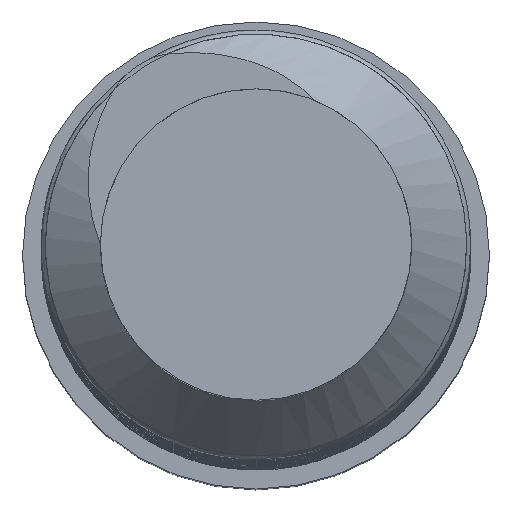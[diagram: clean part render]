
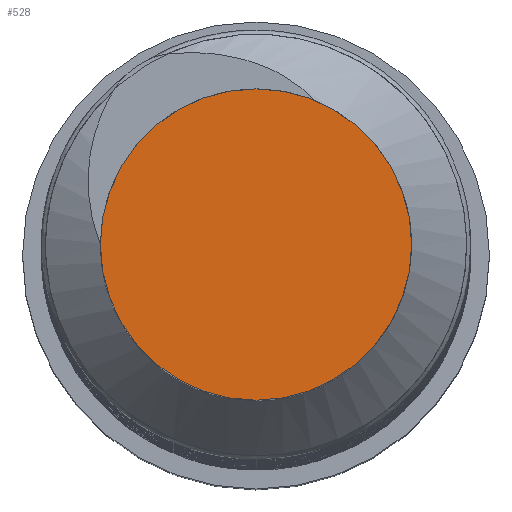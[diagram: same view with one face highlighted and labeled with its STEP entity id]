
A CAD part, top view. The second image highlights one B-rep face of the part: STEP entity #528.
In plain terms, the highlighted planar face has unit normal (0, 0, 1).
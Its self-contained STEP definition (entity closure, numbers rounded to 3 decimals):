
#35=PLANE('',#583);
#60=FACE_OUTER_BOUND('',#91,.T.);
#91=EDGE_LOOP('',(#432));
#97=CIRCLE('',#550,3.);
#200=VERTEX_POINT('',#733);
#254=EDGE_CURVE('',#200,#200,#97,.T.);
#432=ORIENTED_EDGE('',*,*,#254,.T.);
#528=ADVANCED_FACE('',(#60),#35,.T.);
#550=AXIS2_PLACEMENT_3D('',#735,#595,#596);
#583=AXIS2_PLACEMENT_3D('',#1793,#684,#685);
#595=DIRECTION('center_axis',(0.,0.,1.));
#596=DIRECTION('ref_axis',(-1.,0.,0.));
#684=DIRECTION('center_axis',(0.,0.,
1.));
#685=DIRECTION('ref_axis',(-1.,0.,0.));
#733=CARTESIAN_POINT('',(3.,0.,128.));
#735=CARTESIAN_POINT('Origin',(0.,0.,
128.));
#1793=CARTESIAN_POINT('Origin',(0.,0.,
128.));
